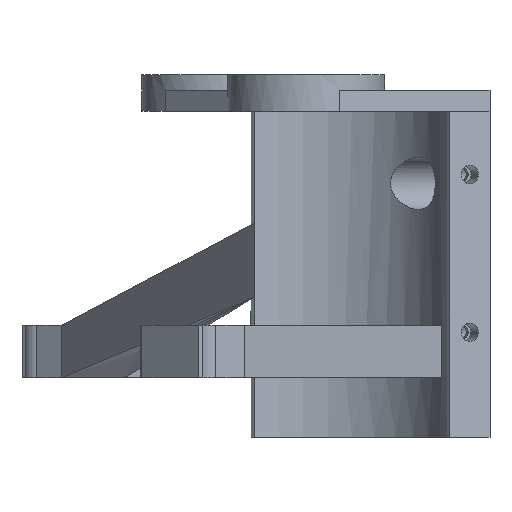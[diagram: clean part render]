
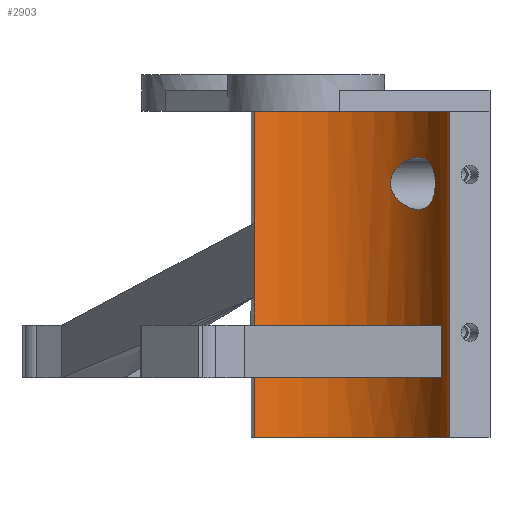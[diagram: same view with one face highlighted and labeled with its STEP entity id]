
A CAD part, front view. The second image highlights one B-rep face of the part: STEP entity #2903.
In plain terms, the highlighted cylindrical face has radius 27.5 mm (diameter 55 mm), a partial arc.
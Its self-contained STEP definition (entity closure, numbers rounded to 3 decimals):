
#27=B_SPLINE_CURVE_WITH_KNOTS('',3,(#4284,#4285,#4286,#4287,#4288,#4289,
#4290,#4291,#4292,#4293,#4294,#4295,#4296,#4297,#4298,#4299,#4300,#4301,
#4302,#4303),.UNSPECIFIED.,.F.,.F.,(4,2,2,2,2,2,2,2,2,4),(0.,0.097,
0.194,0.387,0.658,0.928,
1.159,1.39,1.575,1.761),
 .UNSPECIFIED.);
#28=B_SPLINE_CURVE_WITH_KNOTS('',3,(#4304,#4305,#4306,#4307,#4308,#4309,
#4310,#4311,#4312,#4313,#4314,#4315,#4316,#4317,#4318,#4319,#4320,#4321,
#4322,#4323),.UNSPECIFIED.,.F.,.F.,(4,2,2,2,2,2,2,2,2,4),(1.761,
1.946,2.131,2.362,2.593,2.863,
3.134,3.327,3.424,3.521),
 .UNSPECIFIED.);
#96=LINE('',#4498,#356);
#111=LINE('',#4536,#371);
#194=LINE('',#4814,#454);
#195=LINE('',#4820,#455);
#356=VECTOR('',#3527,10.);
#371=VECTOR('',#3568,10.);
#454=VECTOR('',#3747,10.);
#455=VECTOR('',#3754,10.);
#607=CYLINDRICAL_SURFACE('',#3152,27.5);
#666=FACE_BOUND('',#1001,.T.);
#667=FACE_BOUND('',#1002,.T.);
#799=FACE_OUTER_BOUND('',#1000,.T.);
#1000=EDGE_LOOP('',(#2325,#2326,#2327,#2328));
#1001=EDGE_LOOP('',(#2329,#2330));
#1002=EDGE_LOOP('',(#2331,#2332,#2333,#2334));
#1158=CIRCLE('',#3083,27.5);
#1171=CIRCLE('',#3114,27.5);
#1184=CIRCLE('',#3153,27.5);
#1185=CIRCLE('',#3154,27.5);
#1271=VERTEX_POINT('',#4282);
#1272=VERTEX_POINT('',#4283);
#1305=VERTEX_POINT('',#4460);
#1306=VERTEX_POINT('',#4461);
#1323=VERTEX_POINT('',#4497);
#1333=VERTEX_POINT('',#4535);
#1393=VERTEX_POINT('',#4807);
#1396=VERTEX_POINT('',#4812);
#1397=VERTEX_POINT('',#4816);
#1398=VERTEX_POINT('',#4818);
#1549=EDGE_CURVE('',#1271,#1272,#27,.T.);
#1550=EDGE_CURVE('',#1272,#1271,#28,.T.);
#1596=EDGE_CURVE('',#1305,#1306,#1158,.T.);
#1614=EDGE_CURVE('',#1323,#1305,#96,.T.);
#1633=EDGE_CURVE('',#1306,#1333,#111,.T.);
#1649=EDGE_CURVE('',#1333,#1323,#1171,.T.);
#1735=EDGE_CURVE('',#1393,#1396,#194,.T.);
#1736=EDGE_CURVE('',#1393,#1397,#1184,.T.);
#1737=EDGE_CURVE('',#1398,#1396,#1185,.T.);
#1738=EDGE_CURVE('',#1397,#1398,#195,.T.);
#2325=ORIENTED_EDGE('',*,*,#1736,.F.);
#2326=ORIENTED_EDGE('',*,*,#1735,.T.);
#2327=ORIENTED_EDGE('',*,*,#1737,.F.);
#2328=ORIENTED_EDGE('',*,*,#1738,.F.);
#2329=ORIENTED_EDGE('',*,*,#1549,.T.);
#2330=ORIENTED_EDGE('',*,*,#1550,.T.);
#2331=ORIENTED_EDGE('',*,*,#1614,.T.);
#2332=ORIENTED_EDGE('',*,*,#1596,.T.);
#2333=ORIENTED_EDGE('',*,*,#1633,.T.);
#2334=ORIENTED_EDGE('',*,*,#1649,.T.);
#2903=ADVANCED_FACE('',(#799,#666,#667),#607,.F.);
#3083=AXIS2_PLACEMENT_3D('',#4462,#3500,#3501);
#3114=AXIS2_PLACEMENT_3D('',#4567,#3602,#3603);
#3152=AXIS2_PLACEMENT_3D('',#4815,#3748,#3749);
#3153=AXIS2_PLACEMENT_3D('',#4817,#3750,#3751);
#3154=AXIS2_PLACEMENT_3D('',#4819,#3752,#3753);
#3500=DIRECTION('center_axis',(0.,0.,
1.));
#3501=DIRECTION('ref_axis',(-1.,0.,0.));
#3527=DIRECTION('',(0.,0.,-1.));
#3568=DIRECTION('',(0.,0.,1.));
#3602=DIRECTION('center_axis',(0.,0.,
-1.));
#3603=DIRECTION('ref_axis',(-1.,0.,0.));
#3747=DIRECTION('',(0.,0.,1.));
#3748=DIRECTION('center_axis',(0.,0.,1.));
#3749=DIRECTION('ref_axis',(0.616,0.788,0.));
#3750=DIRECTION('center_axis',(0.,0.,1.));
#3751=DIRECTION('ref_axis',(-1.,0.,0.));
#3752=DIRECTION('center_axis',(0.,0.,-1.));
#3753=DIRECTION('ref_axis',(-1.,0.,0.));
#3754=DIRECTION('',(0.,0.,1.));
#4282=CARTESIAN_POINT('',(-265.384,-81.4,42.322));
#4283=CARTESIAN_POINT('',(-256.86,-91.4,42.322));
#4284=CARTESIAN_POINT('Ctrl Pts',(-265.384,-81.4,42.322));
#4285=CARTESIAN_POINT('Ctrl Pts',(-265.384,-81.4,42.645));
#4286=CARTESIAN_POINT('Ctrl Pts',(-265.339,-81.431,42.966));
#4287=CARTESIAN_POINT('Ctrl Pts',(-265.174,-81.552,43.587));
#4288=CARTESIAN_POINT('Ctrl Pts',(-265.053,-81.641,43.885));
#4289=CARTESIAN_POINT('Ctrl Pts',(-264.609,-81.974,44.727));
#4290=CARTESIAN_POINT('Ctrl Pts',(-264.206,-82.29,45.215));
#4291=CARTESIAN_POINT('Ctrl Pts',(-263.251,-83.088,46.135));
#4292=CARTESIAN_POINT('Ctrl Pts',(-262.6,-83.673,46.574));
#4293=CARTESIAN_POINT('Ctrl Pts',(-261.301,-84.978,47.169));
#4294=CARTESIAN_POINT('Ctrl Pts',(-260.654,-85.699,47.322));
#4295=CARTESIAN_POINT('Ctrl Pts',(-259.602,-86.997,47.322));
#4296=CARTESIAN_POINT('Ctrl Pts',(-259.106,-87.666,47.209));
#4297=CARTESIAN_POINT('Ctrl Pts',(-258.238,-88.948,46.68));
#4298=CARTESIAN_POINT('Ctrl Pts',(-257.865,-89.56,46.263));
#4299=CARTESIAN_POINT('Ctrl Pts',(-257.359,-90.442,45.32));
#4300=CARTESIAN_POINT('Ctrl Pts',(-257.169,-90.799,44.784));
#4301=CARTESIAN_POINT('Ctrl Pts',(-256.92,-91.278,43.594));
#4302=CARTESIAN_POINT('Ctrl Pts',(-256.86,-91.4,42.94));
#4303=CARTESIAN_POINT('Ctrl Pts',(-256.86,-91.4,42.322));
#4304=CARTESIAN_POINT('Ctrl Pts',(-256.86,-91.4,42.322));
#4305=CARTESIAN_POINT('Ctrl Pts',(-256.86,-91.4,41.705));
#4306=CARTESIAN_POINT('Ctrl Pts',(-256.92,-91.278,41.051));
#4307=CARTESIAN_POINT('Ctrl Pts',(-257.169,-90.799,39.861));
#4308=CARTESIAN_POINT('Ctrl Pts',(-257.359,-90.442,39.324));
#4309=CARTESIAN_POINT('Ctrl Pts',(-257.865,-89.56,38.382));
#4310=CARTESIAN_POINT('Ctrl Pts',(-258.238,-88.948,37.965));
#4311=CARTESIAN_POINT('Ctrl Pts',(-259.106,-87.666,37.436));
#4312=CARTESIAN_POINT('Ctrl Pts',(-259.602,-86.997,37.322));
#4313=CARTESIAN_POINT('Ctrl Pts',(-260.654,-85.699,37.322));
#4314=CARTESIAN_POINT('Ctrl Pts',(-261.301,-84.978,37.475));
#4315=CARTESIAN_POINT('Ctrl Pts',(-262.6,-83.673,38.07));
#4316=CARTESIAN_POINT('Ctrl Pts',(-263.251,-83.088,38.51));
#4317=CARTESIAN_POINT('Ctrl Pts',(-264.206,-82.29,39.43));
#4318=CARTESIAN_POINT('Ctrl Pts',(-264.609,-81.974,39.918));
#4319=CARTESIAN_POINT('Ctrl Pts',(-265.053,-81.641,40.759));
#4320=CARTESIAN_POINT('Ctrl Pts',(-265.174,-81.552,41.058));
#4321=CARTESIAN_POINT('Ctrl Pts',(-265.339,-81.431,41.678));
#4322=CARTESIAN_POINT('Ctrl Pts',(-265.384,-81.4,42.));
#4323=CARTESIAN_POINT('Ctrl Pts',(-265.384,-81.4,42.322));
#4460=CARTESIAN_POINT('',(-255.611,-94.297,5.3));
#4461=CARTESIAN_POINT('',(-273.918,-77.272,5.3));
#4462=CARTESIAN_POINT('Origin',(-281.445,-103.722,5.3));
#4497=CARTESIAN_POINT('',(-255.611,-94.297,15.3));
#4498=CARTESIAN_POINT('',(-255.611,-94.297,-6.));
#4535=CARTESIAN_POINT('',(-273.918,-77.272,15.3));
#4536=CARTESIAN_POINT('',(-273.918,-77.272,-6.));
#4567=CARTESIAN_POINT('Origin',(-281.445,-103.722,15.3));
#4807=CARTESIAN_POINT('',(-254.135,-106.952,-6.));
#4812=CARTESIAN_POINT('',(-254.135,-106.952,56.));
#4814=CARTESIAN_POINT('',(-254.135,-106.952,-6.));
#4815=CARTESIAN_POINT('Origin',(-281.445,-103.722,-6.));
#4816=CARTESIAN_POINT('',(-291.179,-78.002,-6.));
#4817=CARTESIAN_POINT('Origin',(-281.445,-103.722,-6.));
#4818=CARTESIAN_POINT('',(-291.179,-78.002,56.));
#4819=CARTESIAN_POINT('Origin',(-281.445,-103.722,56.));
#4820=CARTESIAN_POINT('',(-291.179,-78.002,-6.));
